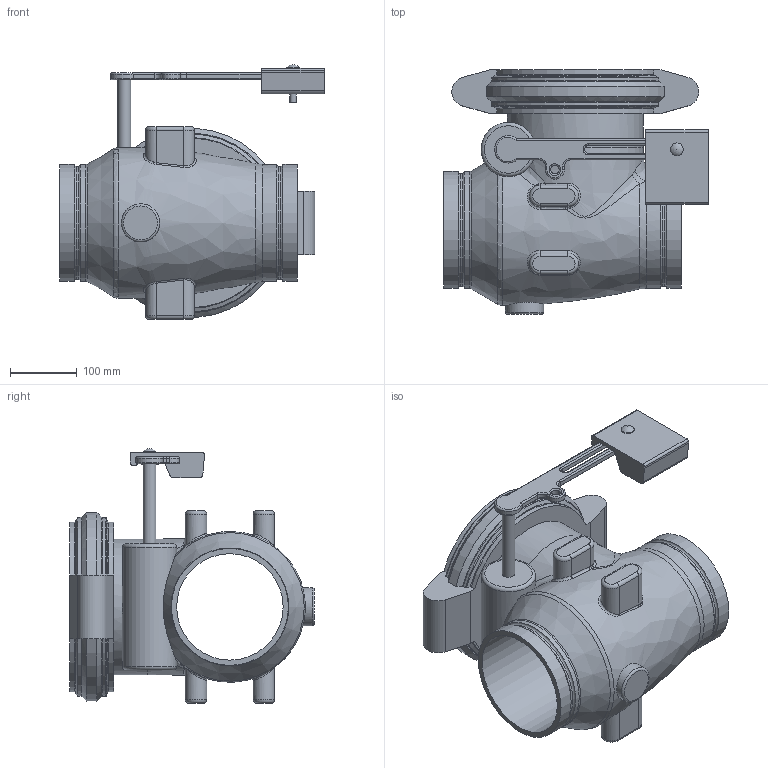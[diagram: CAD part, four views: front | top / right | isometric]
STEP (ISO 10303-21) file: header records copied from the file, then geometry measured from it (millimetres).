
FILE_DESCRIPTION(/* description */ ('VIC AWWA VALVE CHECK WEIGHT AND LEVER SERIES 317 (DRG)','CAx-IF Rec.Pracs.---Representation and Presentation of Product Manufacturing Information (PMI)---4.0---2014-10-13'),/* implementation_level */ '2;1');
FILE_NAME(/* name */ 'C:\Users\Vjadhav\Desktop\CAD for Inventor\1\317\STEP\Victaulic_AWWA_Valve Check Weight and Lever_Series 317 (DRG)\Victaulic_AWWA_Valve Check Weight and Lever_Series 317 (DRG)_6 (150).stp',/* time_stamp */ '2021-10-01T17:35:21+05:00',/* author */ ('jbrannon'),/* organization */ ('Victaulic'),/* preprocessor_version */ 'ST-DEVELOPER v17.2',/* originating_system */ 'Autodesk Inventor 2019',/* authorisation */ '');
FILE_SCHEMA (('AP242_MANAGED_MODEL_BASED_3D_ENGINEERING_MIM_LF { 1 0 10303 442 1 1 4 }'));
Length unit declared in the file: inch
Products named in the file (1): 317-06.0
Bounding box: 395.99 x 366.52 x 381.2 mm (x, y, z)
Volume: 12391427 mm3; surface area: 720455.4 mm2
Topology: 1 solids, 1 shells, 225 faces, 584 edges, 369 vertices
Faces by surface type: cylinder 76, plane 59, torus 49, bspline 30, cone 10, sphere 1
Full cylindrical faces by diameter (mm): 9.525 x2, 12.827 x1, 19.05 x2, 25.4 x1, 57.15 x1, 81.28 x1, 159.512 x1, 169.062 x2, 175.26 x4, 203.2 x1
Entity records: 8817 total; most frequent: CARTESIAN_POINT 3064, ORIENTED_EDGE 1166, DIRECTION 1152, EDGE_CURVE 583, AXIS2_PLACEMENT_3D 474, VERTEX_POINT 369, CIRCLE 265, EDGE_LOOP 242
